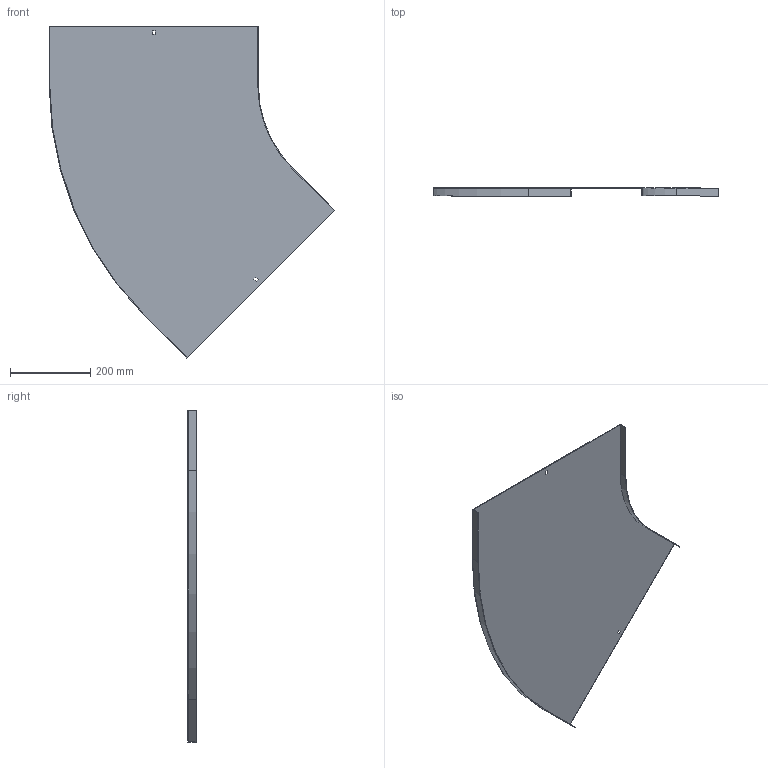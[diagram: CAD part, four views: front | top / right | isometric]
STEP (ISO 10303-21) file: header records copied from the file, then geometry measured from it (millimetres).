
FILE_DESCRIPTION (( 'STEP AP214' ), '1' );
FILE_NAME ('11N3P500.step', '2025-02-21T13:35:04', ( '' ), ( '' ), 'SwSTEP 2.0', 'SolidWorks 2023', '' );
FILE_SCHEMA (( 'AUTOMOTIVE_DESIGN' ));
Length unit declared in the file: millimetre
Products named in the file (1): 11N3P500
Bounding box: 713.57 x 20 x 829.88 mm (x, y, z)
Volume: 614678.5 mm3; surface area: 823540.2 mm2
Topology: 1 solids, 1 shells, 26 faces, 72 edges, 48 vertices
Faces by surface type: plane 22, cylinder 4
Entity records: 855 total; most frequent: CARTESIAN_POINT 147, ORIENTED_EDGE 144, DIRECTION 134, EDGE_CURVE 72, LINE 64, VECTOR 64, VERTEX_POINT 48, AXIS2_PLACEMENT_3D 35
